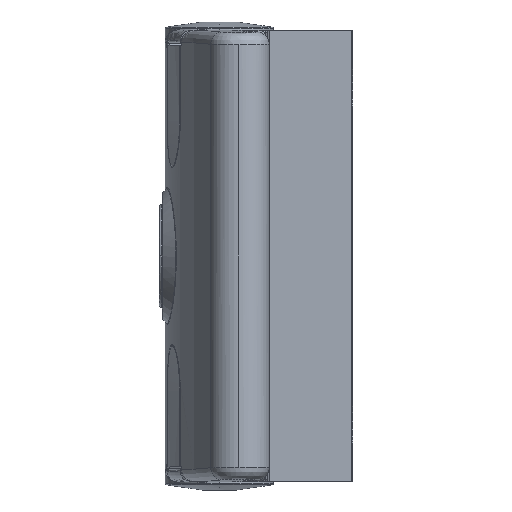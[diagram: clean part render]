
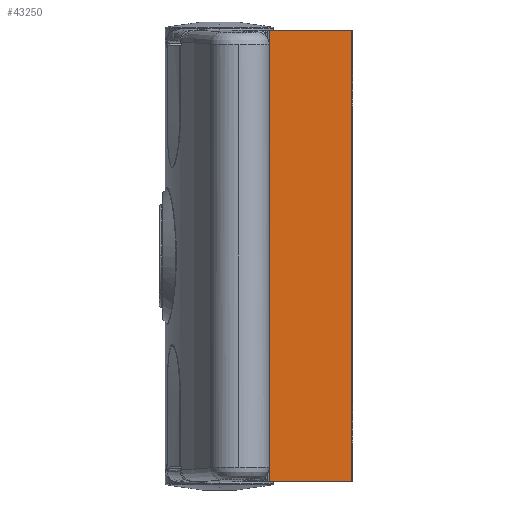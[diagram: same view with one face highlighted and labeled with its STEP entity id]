
A CAD part, left-side view. The second image highlights one B-rep face of the part: STEP entity #43250.
In plain terms, the highlighted planar face has unit normal (-1, 0, 0) as drawn and (0, 0, -1) by its records, which use the part's own axes.
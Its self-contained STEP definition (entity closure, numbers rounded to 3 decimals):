
#24703 = CARTESIAN_POINT ( 'NONE',  ( -37.5, 13.7, -18.25 ) ) ;
#24704 = CARTESIAN_POINT ( 'NONE',  ( -37.5, 0., -18.25 ) ) ;
#24711 = CARTESIAN_POINT ( 'NONE',  ( 37.5, 13.7, -18.25 ) ) ;
#24719 = CARTESIAN_POINT ( 'NONE',  ( 37.5, 0., -18.25 ) ) ;
#24728 = CARTESIAN_POINT ( 'NONE',  ( -31.2, 13.7, -18.25 ) ) ;
#24729 = CARTESIAN_POINT ( 'NONE',  ( -31.2, 21.4, -18.25 ) ) ;
#24730 = CARTESIAN_POINT ( 'NONE',  ( 31.2, 21.4, -18.25 ) ) ;
#24731 = CARTESIAN_POINT ( 'NONE',  ( 31.2, 13.7, -18.25 ) ) ;
#33880 = AXIS2_PLACEMENT_3D ( 'NONE', #69639, #69647, #69648 ) ;
#36193 = LINE ( 'NONE', #39604, #36198 ) ;
#36198 = VECTOR ( 'NONE', #39608, 1000. ) ;
#36221 = LINE ( 'NONE', #39650, #36224 ) ;
#36224 = VECTOR ( 'NONE', #39653, 1000. ) ;
#36226 = LINE ( 'NONE', #39677, #36233 ) ;
#36231 = LINE ( 'NONE', #39682, #36237 ) ;
#36233 = VECTOR ( 'NONE', #39680, 1000. ) ;
#36235 = LINE ( 'NONE', #39687, #36240 ) ;
#36237 = VECTOR ( 'NONE', #39685, 1000. ) ;
#36238 = LINE ( 'NONE', #39692, #36244 ) ;
#36240 = VECTOR ( 'NONE', #39690, 1000. ) ;
#36242 = LINE ( 'NONE', #39697, #36248 ) ;
#36244 = VECTOR ( 'NONE', #39695, 1000. ) ;
#36246 = LINE ( 'NONE', #39701, #36251 ) ;
#36248 = VECTOR ( 'NONE', #39700, 1000. ) ;
#36251 = VECTOR ( 'NONE', #39702, 1000. ) ;
#39604 = CARTESIAN_POINT ( 'NONE',  ( 37.5, 32., -18.25 ) ) ;
#39608 = DIRECTION ( 'NONE',  ( 0., -1., 0. ) ) ;
#39650 = CARTESIAN_POINT ( 'NONE',  ( -37.5, 32., -18.25 ) ) ;
#39653 = DIRECTION ( 'NONE',  ( 0., -1., 0. ) ) ;
#39677 = CARTESIAN_POINT ( 'NONE',  ( -31.2, 32., -18.25 ) ) ;
#39680 = DIRECTION ( 'NONE',  ( 0., 1., 0. ) ) ;
#39682 = CARTESIAN_POINT ( 'NONE',  ( -31.5, 13.7, -18.25 ) ) ;
#39685 = DIRECTION ( 'NONE',  ( 1., 0., 0. ) ) ;
#39687 = CARTESIAN_POINT ( 'NONE',  ( 31.5, 21.4, -18.25 ) ) ;
#39690 = DIRECTION ( 'NONE',  ( 1., 0., 0. ) ) ;
#39692 = CARTESIAN_POINT ( 'NONE',  ( 31.2, 32., -18.25 ) ) ;
#39695 = DIRECTION ( 'NONE',  ( 0., -1., 0. ) ) ;
#39697 = CARTESIAN_POINT ( 'NONE',  ( 37.5, 13.7, -18.25 ) ) ;
#39700 = DIRECTION ( 'NONE',  ( 1., 0., 0. ) ) ;
#39701 = CARTESIAN_POINT ( 'NONE',  ( -37.5, 0., -18.25 ) ) ;
#39702 = DIRECTION ( 'NONE',  ( -1., 0., 0. ) ) ;
#43250 = ADVANCED_FACE ( 'NONE', ( #73416 ), #69643, .F. ) ;
#54041 = ORIENTED_EDGE ( 'NONE', *, *, #60574, .F. ) ;
#54042 = ORIENTED_EDGE ( 'NONE', *, *, #60579, .T. ) ;
#54043 = ORIENTED_EDGE ( 'NONE', *, *, #60578, .T. ) ;
#54044 = ORIENTED_EDGE ( 'NONE', *, *, #60581, .T. ) ;
#54045 = ORIENTED_EDGE ( 'NONE', *, *, #60583, .T. ) ;
#54046 = ORIENTED_EDGE ( 'NONE', *, *, #60585, .T. ) ;
#54047 = ORIENTED_EDGE ( 'NONE', *, *, #60557, .T. ) ;
#54048 = ORIENTED_EDGE ( 'NONE', *, *, #60586, .T. ) ;
#54733 = VERTEX_POINT ( 'NONE', #24703 ) ;
#54734 = VERTEX_POINT ( 'NONE', #24704 ) ;
#54741 = VERTEX_POINT ( 'NONE', #24711 ) ;
#54749 = VERTEX_POINT ( 'NONE', #24719 ) ;
#54758 = VERTEX_POINT ( 'NONE', #24728 ) ;
#54759 = VERTEX_POINT ( 'NONE', #24729 ) ;
#54760 = VERTEX_POINT ( 'NONE', #24730 ) ;
#54761 = VERTEX_POINT ( 'NONE', #24731 ) ;
#60557 = EDGE_CURVE ( 'NONE', #54741, #54749, #36193, .T. ) ;
#60574 = EDGE_CURVE ( 'NONE', #54733, #54734, #36221, .T. ) ;
#60578 = EDGE_CURVE ( 'NONE', #54758, #54759, #36226, .T. ) ;
#60579 = EDGE_CURVE ( 'NONE', #54733, #54758, #36231, .T. ) ;
#60581 = EDGE_CURVE ( 'NONE', #54759, #54760, #36235, .T. ) ;
#60583 = EDGE_CURVE ( 'NONE', #54760, #54761, #36238, .T. ) ;
#60585 = EDGE_CURVE ( 'NONE', #54761, #54741, #36242, .T. ) ;
#60586 = EDGE_CURVE ( 'NONE', #54749, #54734, #36246, .T. ) ;
#61938 = EDGE_LOOP ( 'NONE', ( #54041, #54042, #54043, #54044, #54045, #54046, #54047, #54048 ) ) ;
#69639 = CARTESIAN_POINT ( 'NONE',  ( -37.5, 32., -18.25 ) ) ;
#69643 = PLANE ( 'NONE',  #33880 ) ;
#69647 = DIRECTION ( 'NONE',  ( 0., 0., 1. ) ) ;
#69648 = DIRECTION ( 'NONE',  ( 1., 0., 0. ) ) ;
#73416 = FACE_OUTER_BOUND ( 'NONE', #61938, .T. ) ;
